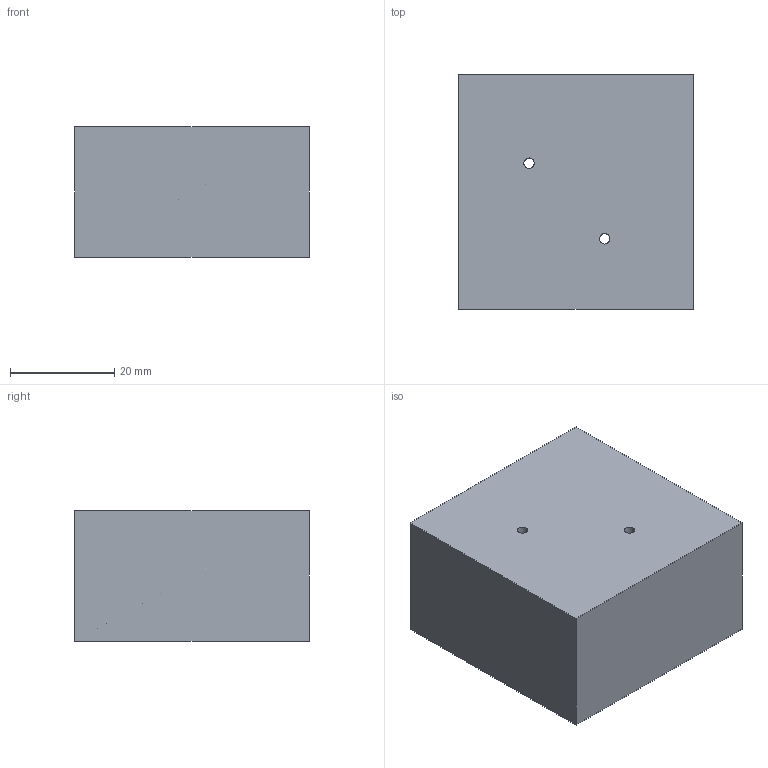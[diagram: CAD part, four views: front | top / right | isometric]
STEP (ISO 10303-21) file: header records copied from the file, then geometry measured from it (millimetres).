
FILE_DESCRIPTION (( 'STEP AP203' ), '1' );
FILE_NAME ('FT20ES09.STEP', '2026-06-26T01:11:55', ( 'USER' ), ( '' ), 'SwSTEP 2.0', 'SolidWorks 2023', '' );
FILE_SCHEMA (( 'CONFIG_CONTROL_DESIGN' ));
Length unit declared in the file: millimetre
Products named in the file (1): FT20ES09
Bounding box: 45 x 45 x 25 mm (x, y, z)
Volume: 36277.5 mm3; surface area: 11522 mm2
Topology: 1 solids, 1 shells, 40 faces, 95 edges, 57 vertices
Faces by surface type: cylinder 22, plane 10, cone 8
Entity records: 1348 total; most frequent: CARTESIAN_POINT 346, DIRECTION 194, ORIENTED_EDGE 190, EDGE_CURVE 95, AXIS2_PLACEMENT_3D 77, VERTEX_POINT 57, EDGE_LOOP 50, FACE_OUTER_BOUND 40
